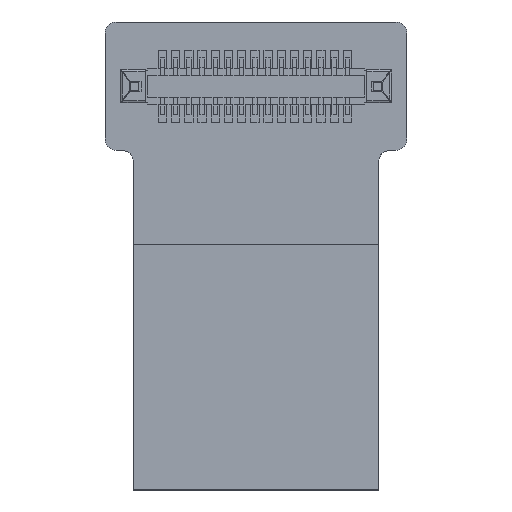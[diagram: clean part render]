
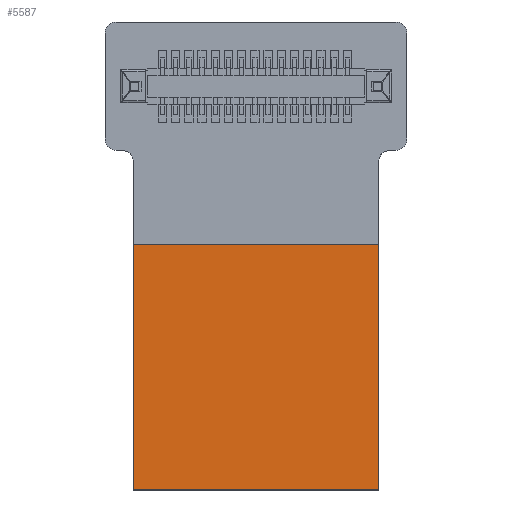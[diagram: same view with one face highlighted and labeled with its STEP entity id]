
A CAD part, front view. The second image highlights one B-rep face of the part: STEP entity #5587.
In plain terms, the highlighted planar face has unit normal (0, -1, 0).
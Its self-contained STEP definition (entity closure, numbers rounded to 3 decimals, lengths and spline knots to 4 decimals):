
#5579=AXIS2_PLACEMENT_3D('Plane Axis2P3D',#5576,#5577,#5578) ;
#5460=CARTESIAN_POINT('Vertex',(-3.25,-0.18,-3.25)) ;
#5463=CARTESIAN_POINT('Line Origine',(-3.25,-0.18,0.)) ;
#5467=CARTESIAN_POINT('Vertex',(-3.25,-0.18,3.25)) ;
#5495=CARTESIAN_POINT('Line Origine',(0.,-0.18,3.25)) ;
#5499=CARTESIAN_POINT('Vertex',(3.25,-0.18,3.25)) ;
#5526=CARTESIAN_POINT('Line Origine',(3.25,-0.18,0.)) ;
#5530=CARTESIAN_POINT('Vertex',(3.25,-0.18,-3.25)) ;
#5557=CARTESIAN_POINT('Line Origine',(0.,-0.18,-3.25)) ;
#5576=CARTESIAN_POINT('Axis2P3D Location',(0.,-0.18,0.)) ;
#5464=DIRECTION('Vector Direction',(0.,0.,1.)) ;
#5496=DIRECTION('Vector Direction',(1.,0.,0.)) ;
#5527=DIRECTION('Vector Direction',(0.,0.,-1.)) ;
#5558=DIRECTION('Vector Direction',(-1.,0.,0.)) ;
#5577=DIRECTION('Axis2P3D Direction',(0.,1.,0.)) ;
#5578=DIRECTION('Axis2P3D XDirection',(0.,0.,-1.)) ;
#5465=VECTOR('Line Direction',#5464,1.) ;
#5497=VECTOR('Line Direction',#5496,1.) ;
#5528=VECTOR('Line Direction',#5527,1.) ;
#5559=VECTOR('Line Direction',#5558,1.) ;
#5582=ORIENTED_EDGE('',*,*,#5532,.F.) ;
#5583=ORIENTED_EDGE('',*,*,#5501,.F.) ;
#5584=ORIENTED_EDGE('',*,*,#5469,.F.) ;
#5585=ORIENTED_EDGE('',*,*,#5561,.F.) ;
#5587=ADVANCED_FACE('MANIFOLD_SOLID_BREP #5193',(#5586),#5580,.F.) ;
#5469=EDGE_CURVE('',#5461,#5468,#5466,.T.) ;
#5501=EDGE_CURVE('',#5468,#5500,#5498,.T.) ;
#5532=EDGE_CURVE('',#5500,#5531,#5529,.T.) ;
#5561=EDGE_CURVE('',#5531,#5461,#5560,.T.) ;
#5581=EDGE_LOOP('',(#5582,#5583,#5584,#5585)) ;
#5586=FACE_OUTER_BOUND('',#5581,.T.) ;
#5466=LINE('Line',#5463,#5465) ;
#5498=LINE('Line',#5495,#5497) ;
#5529=LINE('Line',#5526,#5528) ;
#5560=LINE('Line',#5557,#5559) ;
#5580=PLANE('',#5579) ;
#5461=VERTEX_POINT('',#5460) ;
#5468=VERTEX_POINT('',#5467) ;
#5500=VERTEX_POINT('',#5499) ;
#5531=VERTEX_POINT('',#5530) ;
